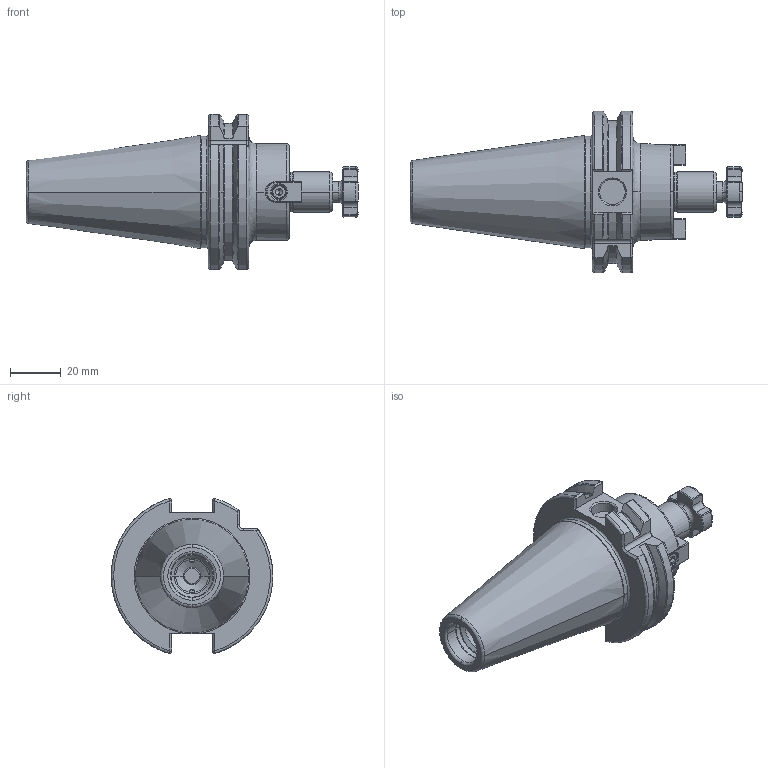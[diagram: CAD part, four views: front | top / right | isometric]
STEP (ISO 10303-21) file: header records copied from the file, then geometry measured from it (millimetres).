
FILE_DESCRIPTION (( 'STEP AP214' ), '1' );
FILE_NAME ('04-0912.STEP', '2022-08-31T21:22:38', ( '' ), ( '' ), 'SwSTEP 2.0', 'SolidWorks 2021', '' );
FILE_SCHEMA (( 'AUTOMOTIVE_DESIGN' ));
Length unit declared in the file: inch
Products named in the file (1): 04-0912
Bounding box: 130.4 x 63.52 x 61.05 mm (x, y, z)
Volume: 121849.8 mm3; surface area: 26896.5 mm2
Topology: 2 solids, 4 shells, 402 faces, 1026 edges, 623 vertices
Faces by surface type: plane 150, cylinder 85, cone 85, bspline 82
Entity records: 21780 total; most frequent: CARTESIAN_POINT 7367, ORIENTED_EDGE 2032, DIRECTION 1744, EDGE_CURVE 1016, AXIS2_PLACEMENT_3D 629, VERTEX_POINT 623, VECTOR 486, LINE 486
